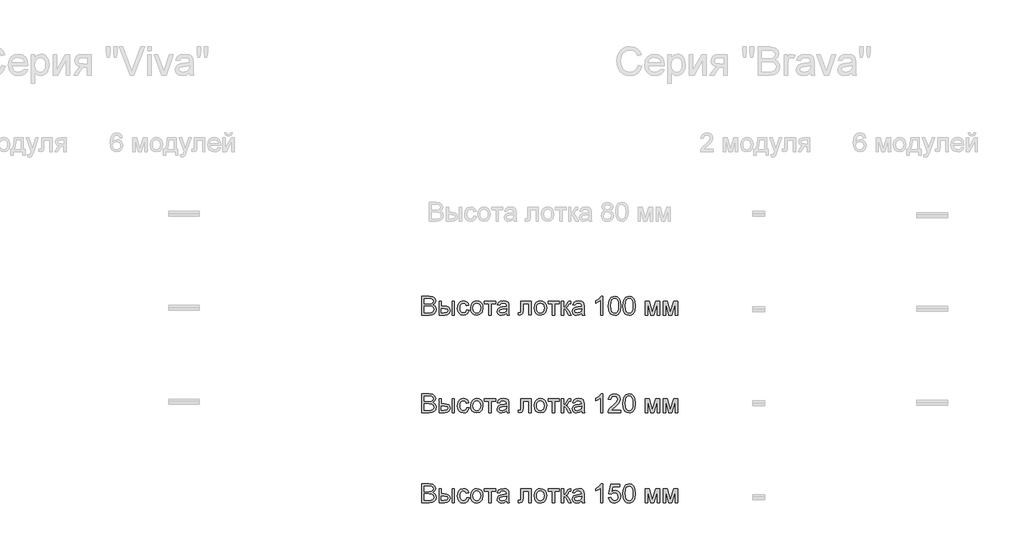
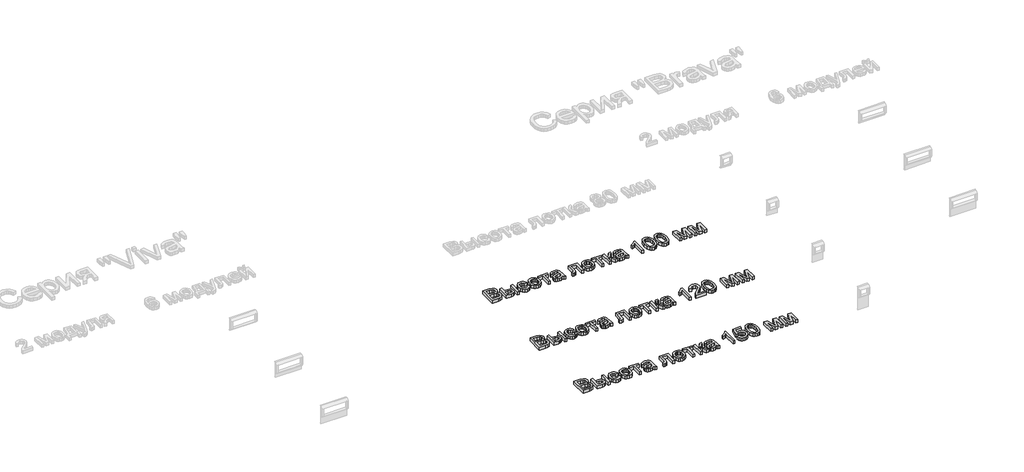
# One storey, part 8 of 28: 3 proxies.
"""IFC4 building model written with IfcOpenShell, lengths in millimetres."""

from ifc_helpers import new_model, si_unit, origin, origin_with_axes, place, context, project, spatial, polyline, outline, extrude, element, save

model = new_model("IFC4")

# Units and contexts
model_context = context("Model", 3, world=origin())
ifc_project = project(units=[si_unit("LENGTHUNIT", "METRE", prefix="MILLI")], contexts=[model_context])

# Site, building, storey
site = spatial("IfcSite", under=ifc_project)
building = spatial("IfcBuilding", under=site)
storey = spatial("IfcBuildingStorey", under=building, Name="Этаж 01", Elevation=0.0)

# Proxies
placement = place(None, origin())
element("IfcBuildingElementProxy", 1, Name="100 мм Arial", ObjectType="100 мм Arial", at=placement, inside=storey, context=model_context, shape_type="SweptSolid", body=[
    extrude(outline(polyline([(5877.0688437, -12466.5703412), (5877.0688437, -12366.114031), (5915.4021476, -12366.114031), (5934.1763921, -12369.0693497), (5945.2619029, -12378.156035), (5949.2718166, -12391.0073794), (5945.899565, -12402.742815), (5935.7092337, -12411.6332966), (5948.0823315, -12421.0020247), (5952.4110763, -12436.6247468), (5949.4557576, -12450.126016), (5942.1349059, -12459.7399988), (5931.2088107, -12464.8412958), (5915.107842, -12466.5703412), (5877.0688437, -12466.5703412)]), holes=[polyline([(5889.6258825, -12406.924407), (5912.5571935, -12406.924407), (5925.9480981, -12405.8452865), (5934.0047138, -12401.1977106), (5936.7147778, -12393.0184676), (5934.1886548, -12384.8269619), (5926.9536422, -12379.9831823), (5910.8158854, -12378.6710698), (5889.6258825, -12378.6710698), (5889.6258825, -12406.924407)]), polyline([(5889.6258825, -12454.0133024), (5915.3776221, -12454.0133024), (5924.6972993, -12453.5227931), (5932.5822368, -12450.7882036), (5937.8061611, -12445.20866), (5939.8540375, -12436.7473741), (5937.4505418, -12426.9862385), (5929.6637063, -12421.1614402), (5914.1513488, -12419.4814458), (5889.6258825, -12419.4814458), (5889.6258825, -12454.0133024)])]), origin_with_axes(), (0.0, 0.0, 1.0), 20.0),
    extrude(outline(polyline([(6037.171088, -12392.7977384), (6049.7281268, -12392.7977384), (6049.7281268, -12466.5703412), (6037.171088, -12466.5703412), (6037.171088, -12392.7977384)])), origin_with_axes(), (0.0, 0.0, 1.0), 20.0),
    extrude(outline(polyline([(5968.1073748, -12392.7977384), (5980.6644135, -12392.7977384), (5980.6644135, -12419.4814458), (5996.1890337, -12419.4814458), (6009.6075295, -12421.0541413), (6019.5495404, -12425.7722279), (6025.7023668, -12433.2555608), (6027.7533089, -12443.1239954), (6026.0334606, -12452.1095131), (6020.8739156, -12459.6909479), (6011.9374488, -12464.8504929), (5998.886835, -12466.5703412), (5968.1073748, -12466.5703412), (5968.1073748, -12392.7977384)]), holes=[polyline([(5980.6644135, -12454.0133024), (5993.5648088, -12454.0133024), (6010.2176005, -12451.3768148), (6015.1962702, -12443.1485208), (6011.5051875, -12435.4229989), (5995.2080151, -12432.0384846), (5980.6644135, -12432.0384846), (5980.6644135, -12454.0133024)])]), origin_with_axes(), (0.0, 0.0, 1.0), 20.0),
    extrude(outline(polyline([(6115.6525803, -12439.8866338), (6128.2096191, -12441.4562636), (6124.7086087, -12452.6245479), (6118.1296524, -12461.064374), (6109.0920181, -12466.3710718), (6098.2149737, -12468.139971), (6084.8577916, -12465.672096), (6074.4130086, -12458.2684708), (6067.6715711, -12446.254058), (6065.4244252, -12429.9538199), (6069.2626607, -12409.0949108), (6080.9613082, -12395.6917434), (6098.0432955, -12391.2281086), (6108.6536253, -12392.7609502), (6117.136371, -12397.3594752), (6123.2217524, -12404.7784287), (6126.6399892, -12414.7725563), (6114.0829505, -12416.3421861), (6108.2581522, -12406.9366698), (6098.1413973, -12403.7851473), (6090.0265337, -12405.3363831), (6083.5855331, -12409.9900903), (6079.3824813, -12417.9976551), (6077.981464, -12429.6104634), (6079.3518244, -12441.3796216), (6083.4629057, -12449.4147775), (6089.7874104, -12454.0408936), (6097.7980408, -12455.5829323), (6109.6315783, -12451.732434), (6115.6525803, -12439.8866338)])), origin_with_axes(), (0.0, 0.0, 1.0), 20.0),
    extrude(outline(polyline([(6136.0577683, -12429.6840398), (6138.7739637, -12411.8969453), (6146.9225499, -12399.3950889), (6156.9902538, -12393.2698536), (6169.0445205, -12391.2281086), (6182.2361557, -12393.7143777), (6192.7729092, -12401.1731852), (6199.6798937, -12413.0159197), (6201.9822218, -12428.6539702), (6197.9109944, -12450.9966701), (6186.0529314, -12463.639548), (6169.0445205, -12468.139971), (6155.6934698, -12465.6628989), (6145.168979, -12458.2316826), (6138.335571, -12446.1406277), (6136.0577683, -12429.6840398)]), holes=[polyline([(6148.6148071, -12429.6595143), (6150.0679409, -12441.0240023), (6154.4273426, -12449.1204719), (6160.9879048, -12453.9673172), (6169.0445205, -12455.5829323), (6177.064348, -12453.9581201), (6183.6126475, -12449.0836837), (6187.9720492, -12440.8799152), (6189.4251831, -12429.2671069), (6187.9628521, -12418.2337127), (6183.5758593, -12410.2476077), (6177.0183628, -12405.4007624), (6169.0445205, -12403.7851473), (6160.9879048, -12405.3946311), (6154.4273426, -12410.2230823), (6150.0679409, -12418.3011577), (6148.6148071, -12429.6595143)])]), origin_with_axes(), (0.0, 0.0, 1.0), 20.0),
    extrude(outline(polyline([(6209.8303711, -12392.7977384), (6269.4763052, -12392.7977384), (6269.4763052, -12405.3547772), (6245.9318575, -12405.3547772), (6245.9318575, -12466.5703412), (6233.3748188, -12466.5703412), (6233.3748188, -12405.3547772), (6209.8303711, -12405.3547772), (6209.8303711, -12392.7977384)])), origin_with_axes(), (0.0, 0.0, 1.0), 20.0),
    extrude(outline(polyline([(6327.5526095, -12457.1525621), (6315.3757155, -12465.6628989), (6301.9234972, -12468.139971), (6291.4296633, -12466.6500489), (6283.688813, -12462.1802827), (6278.9155441, -12455.3928599), (6277.3244544, -12446.9499681), (6279.7279501, -12437.0171542), (6286.0432577, -12429.8066671), (6294.8356374, -12425.6863888), (6305.700419, -12423.7979279), (6327.4790331, -12419.4814458), (6327.5526095, -12416.6855426), (6324.0945188, -12407.4149164), (6310.2131048, -12403.7851473), (6297.5089132, -12406.2009058), (6291.4511231, -12414.7725563), (6278.8940843, -12413.2029264), (6284.3264751, -12400.9401932), (6295.2648331, -12393.7542316), (6311.8317856, -12391.2281086), (6327.0498375, -12393.459926), (6335.6460134, -12399.0639951), (6339.4965116, -12407.5865946), (6340.1096483, -12418.5740035), (6340.1096483, -12434.1967256), (6340.7473104, -12456.0121279), (6343.248908, -12466.5703412), (6330.6918692, -12466.5703412), (6327.5526095, -12457.1525621)]), holes=[polyline([(6327.5526095, -12432.0384846), (6307.2945743, -12435.8889828), (6296.4911064, -12437.9245965), (6291.5982759, -12441.2355344), (6289.8814932, -12446.0670513), (6293.6216268, -12452.8606055), (6304.596773, -12455.5829323), (6317.3009646, -12452.5785626), (6325.4924703, -12445.3067619), (6327.4790331, -12435.5946772), (6327.5526095, -12432.0384846)])]), origin_with_axes(), (0.0, 0.0, 1.0), 20.0),
    extrude(outline(polyline([(6402.8948421, -12392.7977384), (6459.4015166, -12392.7977384), (6459.4015166, -12466.4967648), (6446.8444778, -12466.4967648), (6446.8444778, -12405.3547772), (6415.4518809, -12405.3547772), (6415.4518809, -12440.5488214), (6414.6057523, -12456.7846801), (6409.9581764, -12463.639548), (6398.9707675, -12466.5703412), (6388.7681735, -12465.9326791), (6388.7681735, -12454.0133024), (6394.3845053, -12454.0133024), (6400.0621508, -12453.2407502), (6402.3307564, -12450.7882036), (6402.8948421, -12439.8375829), (6402.8948421, -12392.7977384)])), origin_with_axes(), (0.0, 0.0, 1.0), 20.0),
    extrude(outline(polyline([(6475.0978151, -12429.6840398), (6477.8140105, -12411.8969453), (6485.9625966, -12399.3950889), (6496.0303006, -12393.2698536), (6508.0845673, -12391.2281086), (6521.2762025, -12393.7143777), (6531.812956, -12401.1731852), (6538.7199404, -12413.0159197), (6541.0222686, -12428.6539702), (6536.9510412, -12450.9966701), (6525.0929782, -12463.639548), (6508.0845673, -12468.139971), (6494.7335165, -12465.6628989), (6484.2090258, -12458.2316826), (6477.3756177, -12446.1406277), (6475.0978151, -12429.6840398)]), holes=[polyline([(6487.6548538, -12429.6595143), (6489.1079877, -12441.0240023), (6493.4673893, -12449.1204719), (6500.0279516, -12453.9673172), (6508.0845673, -12455.5829323), (6516.1043948, -12453.9581201), (6522.6526943, -12449.0836837), (6527.0120959, -12440.8799152), (6528.4652298, -12429.2671069), (6527.0028989, -12418.2337127), (6522.6159061, -12410.2476077), (6516.0584095, -12405.4007624), (6508.0845673, -12403.7851473), (6500.0279516, -12405.3946311), (6493.4673893, -12410.2230823), (6489.1079877, -12418.3011577), (6487.6548538, -12429.6595143)])]), origin_with_axes(), (0.0, 0.0, 1.0), 20.0),
    extrude(outline(polyline([(6548.8704178, -12392.7977384), (6608.516352, -12392.7977384), (6608.516352, -12405.3547772), (6584.9719043, -12405.3547772), (6584.9719043, -12466.5703412), (6572.4148655, -12466.5703412), (6572.4148655, -12405.3547772), (6548.8704178, -12405.3547772), (6548.8704178, -12392.7977384)])), origin_with_axes(), (0.0, 0.0, 1.0), 20.0),
    extrude(outline(polyline([(6619.5037609, -12392.7977384), (6632.0607997, -12392.7977384), (6632.0607997, -12424.1903353), (6640.4730346, -12421.9339924), (6647.3646907, -12408.7883425), (6653.0913871, -12397.4453143), (6658.1436331, -12393.7542316), (6667.3284203, -12392.7977384), (6669.731916, -12392.7977384), (6669.731916, -12405.4283536), (6666.3474016, -12405.3547772), (6660.216035, -12406.6791524), (6655.899553, -12414.9442345), (6650.8350442, -12423.883767), (6643.7349216, -12428.2615628), (6651.6566473, -12433.1482619), (6659.4312201, -12443.4428264), (6672.8711757, -12466.5703412), (6658.5973542, -12466.5703412), (6645.4271788, -12443.9333357), (6638.8053029, -12434.3561411), (6632.0607997, -12432.0384846), (6632.0607997, -12466.5703412), (6619.5037609, -12466.5703412), (6619.5037609, -12392.7977384)])), origin_with_axes(), (0.0, 0.0, 1.0), 20.0),
    extrude(outline(polyline([(6727.8082203, -12457.1525621), (6715.6313262, -12465.6628989), (6702.1791079, -12468.139971), (6691.685274, -12466.6500489), (6683.9444237, -12462.1802827), (6679.1711548, -12455.3928599), (6677.5800652, -12446.9499681), (6679.9835609, -12437.0171542), (6686.2988685, -12429.8066671), (6695.0912482, -12425.6863888), (6705.9560298, -12423.7979279), (6727.7346439, -12419.4814458), (6727.8082203, -12416.6855426), (6724.3501295, -12407.4149164), (6710.4687156, -12403.7851473), (6697.764524, -12406.2009058), (6691.7067338, -12414.7725563), (6679.149695, -12413.2029264), (6684.5820858, -12400.9401932), (6695.5204438, -12393.7542316), (6712.0873963, -12391.2281086), (6727.3054482, -12393.459926), (6735.9016242, -12399.0639951), (6739.7521224, -12407.5865946), (6740.365259, -12418.5740035), (6740.365259, -12434.1967256), (6741.0029212, -12456.0121279), (6743.5045187, -12466.5703412), (6730.94748, -12466.5703412), (6727.8082203, -12457.1525621)]), holes=[polyline([(6727.8082203, -12432.0384846), (6707.5501851, -12435.8889828), (6696.7467171, -12437.9245965), (6691.8538866, -12441.2355344), (6690.137104, -12446.0670513), (6693.8772376, -12452.8606055), (6704.8523838, -12455.5829323), (6717.5565753, -12452.5785626), (6725.7480811, -12445.3067619), (6727.7346439, -12435.5946772), (6727.8082203, -12432.0384846)])]), origin_with_axes(), (0.0, 0.0, 1.0), 20.0),
    extrude(outline(polyline([(6840.8215692, -12466.5703412), (6828.2645304, -12466.5703412), (6828.2645304, -12388.2850526), (6816.3696792, -12396.7586012), (6803.1504529, -12403.0984343), (6803.1504529, -12391.2281086), (6821.5568154, -12379.4804102), (6832.7281653, -12366.114031), (6840.8215692, -12366.114031), (6840.8215692, -12466.5703412)])), origin_with_axes(), (0.0, 0.0, 1.0), 20.0),
    extrude(outline(polyline([(6870.6445363, -12417.1515265), (6874.335619, -12388.2482644), (6885.2985024, -12371.58321), (6903.606763, -12366.114031), (6918.2729919, -12369.3513926), (6928.4020095, -12378.6833325), (6934.2881214, -12393.5457651), (6936.5689898, -12417.1515265), (6932.9146953, -12445.9321613), (6921.9886001, -12462.6340038), (6913.7572404, -12466.7634792), (6903.606763, -12468.139971), (6890.5592149, -12465.7487381), (6880.6509265, -12458.5750392), (6873.1461338, -12441.5850223), (6870.6445363, -12417.1515265)]), holes=[polyline([(6883.201575, -12417.127001), (6884.673103, -12436.8791985), (6889.087687, -12448.3111315), (6895.6605119, -12453.7649821), (6903.606763, -12455.5829323), (6911.5530141, -12453.7588507), (6918.1258391, -12448.286606), (6922.5404231, -12436.8485417), (6924.011951, -12417.127001), (6922.589474, -12397.8193277), (6918.3220428, -12386.2984898), (6911.7614806, -12380.5779248), (6903.4596102, -12378.6710698), (6895.5991983, -12380.3510642), (6889.2838907, -12385.3910476), (6884.722154, -12397.6292553), (6883.201575, -12417.127001)])]), origin_with_axes(), (0.0, 0.0, 1.0), 20.0),
    extrude(outline(polyline([(6947.5563987, -12417.1515265), (6951.2474814, -12388.2482644), (6962.2103649, -12371.58321), (6980.5186255, -12366.114031), (6995.1848544, -12369.3513926), (7005.313872, -12378.6833325), (7011.1999839, -12393.5457651), (7013.4808523, -12417.1515265), (7009.8265578, -12445.9321613), (6998.9004625, -12462.6340038), (6990.6691029, -12466.7634792), (6980.5186255, -12468.139971), (6967.4710774, -12465.7487381), (6957.562789, -12458.5750392), (6950.0579963, -12441.5850223), (6947.5563987, -12417.1515265)]), holes=[polyline([(6960.1134375, -12417.127001), (6961.5849655, -12436.8791985), (6965.9995494, -12448.3111315), (6972.5723744, -12453.7649821), (6980.5186255, -12455.5829323), (6988.4648766, -12453.7588507), (6995.0377016, -12448.286606), (6999.4522855, -12436.8485417), (7000.9238135, -12417.127001), (6999.5013364, -12397.8193277), (6995.2339053, -12386.2984898), (6988.6733431, -12380.5779248), (6980.3714727, -12378.6710698), (6972.5110607, -12380.3510642), (6966.1957531, -12385.3910476), (6961.6340164, -12397.6292553), (6960.1134375, -12417.127001)])]), origin_with_axes(), (0.0, 0.0, 1.0), 20.0),
    extrude(outline(polyline([(7066.848267, -12392.7977384), (7088.4552029, -12392.7977384), (7105.1079945, -12451.8550614), (7123.0606359, -12392.7977384), (7143.7601295, -12392.7977384), (7143.7601295, -12466.5703412), (7131.2030907, -12466.5703412), (7131.2030907, -12407.1696617), (7113.1523475, -12466.5703412), (7096.6712341, -12466.5703412), (7079.4053058, -12404.3247076), (7079.4053058, -12466.5703412), (7066.848267, -12466.5703412), (7066.848267, -12392.7977384)])), origin_with_axes(), (0.0, 0.0, 1.0), 20.0),
    extrude(outline(polyline([(7162.5956876, -12392.7977384), (7184.2026235, -12392.7977384), (7200.8554151, -12451.8550614), (7218.8080565, -12392.7977384), (7239.5075501, -12392.7977384), (7239.5075501, -12466.5703412), (7226.9505113, -12466.5703412), (7226.9505113, -12407.1696617), (7208.8997681, -12466.5703412), (7192.4186547, -12466.5703412), (7175.1527264, -12404.3247076), (7175.1527264, -12466.5703412), (7162.5956876, -12466.5703412), (7162.5956876, -12392.7977384)])), origin_with_axes(), (0.0, 0.0, 1.0), 20.0),
])
element("IfcBuildingElementProxy", 2, Name="100 мм Arial", ObjectType="100 мм Arial", at=placement, inside=storey, context=model_context, shape_type="SweptSolid", body=[
    extrude(outline(polyline([(5877.0688437, -12986.5703412), (5877.0688437, -12886.114031), (5915.4021476, -12886.114031), (5934.1763921, -12889.0693497), (5945.2619029, -12898.156035), (5949.2718166, -12911.0073794), (5945.899565, -12922.742815), (5935.7092337, -12931.6332966), (5948.0823315, -12941.0020247), (5952.4110763, -12956.6247468), (5949.4557576, -12970.126016), (5942.1349059, -12979.7399988), (5931.2088107, -12984.8412958), (5915.107842, -12986.5703412), (5877.0688437, -12986.5703412)]), holes=[polyline([(5889.6258825, -12926.924407), (5912.5571935, -12926.924407), (5925.9480981, -12925.8452865), (5934.0047138, -12921.1977106), (5936.7147778, -12913.0184676), (5934.1886548, -12904.8269619), (5926.9536422, -12899.9831823), (5910.8158854, -12898.6710698), (5889.6258825, -12898.6710698), (5889.6258825, -12926.924407)]), polyline([(5889.6258825, -12974.0133024), (5915.3776221, -12974.0133024), (5924.6972993, -12973.5227931), (5932.5822368, -12970.7882036), (5937.8061611, -12965.20866), (5939.8540375, -12956.7473741), (5937.4505418, -12946.9862385), (5929.6637063, -12941.1614402), (5914.1513488, -12939.4814458), (5889.6258825, -12939.4814458), (5889.6258825, -12974.0133024)])]), origin_with_axes(), (0.0, 0.0, 1.0), 20.0),
    extrude(outline(polyline([(6037.171088, -12912.7977384), (6049.7281268, -12912.7977384), (6049.7281268, -12986.5703412), (6037.171088, -12986.5703412), (6037.171088, -12912.7977384)])), origin_with_axes(), (0.0, 0.0, 1.0), 20.0),
    extrude(outline(polyline([(5968.1073748, -12912.7977384), (5980.6644135, -12912.7977384), (5980.6644135, -12939.4814458), (5996.1890337, -12939.4814458), (6009.6075295, -12941.0541413), (6019.5495404, -12945.7722279), (6025.7023668, -12953.2555608), (6027.7533089, -12963.1239954), (6026.0334606, -12972.1095131), (6020.8739156, -12979.6909479), (6011.9374488, -12984.8504929), (5998.886835, -12986.5703412), (5968.1073748, -12986.5703412), (5968.1073748, -12912.7977384)]), holes=[polyline([(5980.6644135, -12974.0133024), (5993.5648088, -12974.0133024), (6010.2176005, -12971.3768148), (6015.1962702, -12963.1485208), (6011.5051875, -12955.4229989), (5995.2080151, -12952.0384846), (5980.6644135, -12952.0384846), (5980.6644135, -12974.0133024)])]), origin_with_axes(), (0.0, 0.0, 1.0), 20.0),
    extrude(outline(polyline([(6115.6525803, -12959.8866338), (6128.2096191, -12961.4562636), (6124.7086087, -12972.6245479), (6118.1296524, -12981.064374), (6109.0920181, -12986.3710718), (6098.2149737, -12988.139971), (6084.8577916, -12985.672096), (6074.4130086, -12978.2684708), (6067.6715711, -12966.254058), (6065.4244252, -12949.9538199), (6069.2626607, -12929.0949108), (6080.9613082, -12915.6917434), (6098.0432955, -12911.2281086), (6108.6536253, -12912.7609502), (6117.136371, -12917.3594752), (6123.2217524, -12924.7784287), (6126.6399892, -12934.7725563), (6114.0829505, -12936.3421861), (6108.2581522, -12926.9366698), (6098.1413973, -12923.7851473), (6090.0265337, -12925.3363831), (6083.5855331, -12929.9900903), (6079.3824813, -12937.9976551), (6077.981464, -12949.6104634), (6079.3518244, -12961.3796216), (6083.4629057, -12969.4147775), (6089.7874104, -12974.0408936), (6097.7980408, -12975.5829323), (6109.6315783, -12971.732434), (6115.6525803, -12959.8866338)])), origin_with_axes(), (0.0, 0.0, 1.0), 20.0),
    extrude(outline(polyline([(6136.0577683, -12949.6840398), (6138.7739637, -12931.8969453), (6146.9225499, -12919.3950889), (6156.9902538, -12913.2698536), (6169.0445205, -12911.2281086), (6182.2361557, -12913.7143777), (6192.7729092, -12921.1731852), (6199.6798937, -12933.0159197), (6201.9822218, -12948.6539702), (6197.9109944, -12970.9966701), (6186.0529314, -12983.639548), (6169.0445205, -12988.139971), (6155.6934698, -12985.6628989), (6145.168979, -12978.2316826), (6138.335571, -12966.1406277), (6136.0577683, -12949.6840398)]), holes=[polyline([(6148.6148071, -12949.6595143), (6150.0679409, -12961.0240023), (6154.4273426, -12969.1204719), (6160.9879048, -12973.9673172), (6169.0445205, -12975.5829323), (6177.064348, -12973.9581201), (6183.6126475, -12969.0836837), (6187.9720492, -12960.8799152), (6189.4251831, -12949.2671069), (6187.9628521, -12938.2337127), (6183.5758593, -12930.2476077), (6177.0183628, -12925.4007624), (6169.0445205, -12923.7851473), (6160.9879048, -12925.3946311), (6154.4273426, -12930.2230823), (6150.0679409, -12938.3011577), (6148.6148071, -12949.6595143)])]), origin_with_axes(), (0.0, 0.0, 1.0), 20.0),
    extrude(outline(polyline([(6209.8303711, -12912.7977384), (6269.4763052, -12912.7977384), (6269.4763052, -12925.3547772), (6245.9318575, -12925.3547772), (6245.9318575, -12986.5703412), (6233.3748188, -12986.5703412), (6233.3748188, -12925.3547772), (6209.8303711, -12925.3547772), (6209.8303711, -12912.7977384)])), origin_with_axes(), (0.0, 0.0, 1.0), 20.0),
    extrude(outline(polyline([(6327.5526095, -12977.1525621), (6315.3757155, -12985.6628989), (6301.9234972, -12988.139971), (6291.4296633, -12986.6500489), (6283.688813, -12982.1802827), (6278.9155441, -12975.3928599), (6277.3244544, -12966.9499681), (6279.7279501, -12957.0171542), (6286.0432577, -12949.8066671), (6294.8356374, -12945.6863888), (6305.700419, -12943.7979279), (6327.4790331, -12939.4814458), (6327.5526095, -12936.6855426), (6324.0945188, -12927.4149164), (6310.2131048, -12923.7851473), (6297.5089132, -12926.2009058), (6291.4511231, -12934.7725563), (6278.8940843, -12933.2029264), (6284.3264751, -12920.9401932), (6295.2648331, -12913.7542316), (6311.8317856, -12911.2281086), (6327.0498375, -12913.459926), (6335.6460134, -12919.0639951), (6339.4965116, -12927.5865946), (6340.1096483, -12938.5740035), (6340.1096483, -12954.1967256), (6340.7473104, -12976.0121279), (6343.248908, -12986.5703412), (6330.6918692, -12986.5703412), (6327.5526095, -12977.1525621)]), holes=[polyline([(6327.5526095, -12952.0384846), (6307.2945743, -12955.8889828), (6296.4911064, -12957.9245965), (6291.5982759, -12961.2355344), (6289.8814932, -12966.0670513), (6293.6216268, -12972.8606055), (6304.596773, -12975.5829323), (6317.3009646, -12972.5785626), (6325.4924703, -12965.3067619), (6327.4790331, -12955.5946772), (6327.5526095, -12952.0384846)])]), origin_with_axes(), (0.0, 0.0, 1.0), 20.0),
    extrude(outline(polyline([(6402.8948421, -12912.7977384), (6459.4015166, -12912.7977384), (6459.4015166, -12986.4967648), (6446.8444778, -12986.4967648), (6446.8444778, -12925.3547772), (6415.4518809, -12925.3547772), (6415.4518809, -12960.5488214), (6414.6057523, -12976.7846801), (6409.9581764, -12983.639548), (6398.9707675, -12986.5703412), (6388.7681735, -12985.9326791), (6388.7681735, -12974.0133024), (6394.3845053, -12974.0133024), (6400.0621508, -12973.2407502), (6402.3307564, -12970.7882036), (6402.8948421, -12959.8375829), (6402.8948421, -12912.7977384)])), origin_with_axes(), (0.0, 0.0, 1.0), 20.0),
    extrude(outline(polyline([(6475.0978151, -12949.6840398), (6477.8140105, -12931.8969453), (6485.9625966, -12919.3950889), (6496.0303006, -12913.2698536), (6508.0845673, -12911.2281086), (6521.2762025, -12913.7143777), (6531.812956, -12921.1731852), (6538.7199404, -12933.0159197), (6541.0222686, -12948.6539702), (6536.9510412, -12970.9966701), (6525.0929782, -12983.639548), (6508.0845673, -12988.139971), (6494.7335165, -12985.6628989), (6484.2090258, -12978.2316826), (6477.3756177, -12966.1406277), (6475.0978151, -12949.6840398)]), holes=[polyline([(6487.6548538, -12949.6595143), (6489.1079877, -12961.0240023), (6493.4673893, -12969.1204719), (6500.0279516, -12973.9673172), (6508.0845673, -12975.5829323), (6516.1043948, -12973.9581201), (6522.6526943, -12969.0836837), (6527.0120959, -12960.8799152), (6528.4652298, -12949.2671069), (6527.0028989, -12938.2337127), (6522.6159061, -12930.2476077), (6516.0584095, -12925.4007624), (6508.0845673, -12923.7851473), (6500.0279516, -12925.3946311), (6493.4673893, -12930.2230823), (6489.1079877, -12938.3011577), (6487.6548538, -12949.6595143)])]), origin_with_axes(), (0.0, 0.0, 1.0), 20.0),
    extrude(outline(polyline([(6548.8704178, -12912.7977384), (6608.516352, -12912.7977384), (6608.516352, -12925.3547772), (6584.9719043, -12925.3547772), (6584.9719043, -12986.5703412), (6572.4148655, -12986.5703412), (6572.4148655, -12925.3547772), (6548.8704178, -12925.3547772), (6548.8704178, -12912.7977384)])), origin_with_axes(), (0.0, 0.0, 1.0), 20.0),
    extrude(outline(polyline([(6619.5037609, -12912.7977384), (6632.0607997, -12912.7977384), (6632.0607997, -12944.1903353), (6640.4730346, -12941.9339924), (6647.3646907, -12928.7883425), (6653.0913871, -12917.4453143), (6658.1436331, -12913.7542316), (6667.3284203, -12912.7977384), (6669.731916, -12912.7977384), (6669.731916, -12925.4283536), (6666.3474016, -12925.3547772), (6660.216035, -12926.6791524), (6655.899553, -12934.9442345), (6650.8350442, -12943.883767), (6643.7349216, -12948.2615628), (6651.6566473, -12953.1482619), (6659.4312201, -12963.4428264), (6672.8711757, -12986.5703412), (6658.5973542, -12986.5703412), (6645.4271788, -12963.9333357), (6638.8053029, -12954.3561411), (6632.0607997, -12952.0384846), (6632.0607997, -12986.5703412), (6619.5037609, -12986.5703412), (6619.5037609, -12912.7977384)])), origin_with_axes(), (0.0, 0.0, 1.0), 20.0),
    extrude(outline(polyline([(6727.8082203, -12977.1525621), (6715.6313262, -12985.6628989), (6702.1791079, -12988.139971), (6691.685274, -12986.6500489), (6683.9444237, -12982.1802827), (6679.1711548, -12975.3928599), (6677.5800652, -12966.9499681), (6679.9835609, -12957.0171542), (6686.2988685, -12949.8066671), (6695.0912482, -12945.6863888), (6705.9560298, -12943.7979279), (6727.7346439, -12939.4814458), (6727.8082203, -12936.6855426), (6724.3501295, -12927.4149164), (6710.4687156, -12923.7851473), (6697.764524, -12926.2009058), (6691.7067338, -12934.7725563), (6679.149695, -12933.2029264), (6684.5820858, -12920.9401932), (6695.5204438, -12913.7542316), (6712.0873963, -12911.2281086), (6727.3054482, -12913.459926), (6735.9016242, -12919.0639951), (6739.7521224, -12927.5865946), (6740.365259, -12938.5740035), (6740.365259, -12954.1967256), (6741.0029212, -12976.0121279), (6743.5045187, -12986.5703412), (6730.94748, -12986.5703412), (6727.8082203, -12977.1525621)]), holes=[polyline([(6727.8082203, -12952.0384846), (6707.5501851, -12955.8889828), (6696.7467171, -12957.9245965), (6691.8538866, -12961.2355344), (6690.137104, -12966.0670513), (6693.8772376, -12972.8606055), (6704.8523838, -12975.5829323), (6717.5565753, -12972.5785626), (6725.7480811, -12965.3067619), (6727.7346439, -12955.5946772), (6727.8082203, -12952.0384846)])]), origin_with_axes(), (0.0, 0.0, 1.0), 20.0),
    extrude(outline(polyline([(6840.8215692, -12986.5703412), (6828.2645304, -12986.5703412), (6828.2645304, -12908.2850526), (6816.3696792, -12916.7586012), (6803.1504529, -12923.0984343), (6803.1504529, -12911.2281086), (6821.5568154, -12899.4804102), (6832.7281653, -12886.114031), (6840.8215692, -12886.114031), (6840.8215692, -12986.5703412)])), origin_with_axes(), (0.0, 0.0, 1.0), 20.0),
    extrude(outline(polyline([(6934.99936, -12974.0133024), (6934.99936, -12986.5703412), (6869.0749064, -12986.5703412), (6870.4238071, -12977.9128516), (6878.0512271, -12964.5832606), (6893.772051, -12950.0273963), (6915.4525633, -12929.1071735), (6920.8726913, -12914.8824031), (6915.7591316, -12903.3676966), (6902.4050152, -12898.6710698), (6888.486813, -12903.257332), (6883.201575, -12915.9369981), (6870.6445363, -12914.3673683), (6873.6887598, -12902.2211311), (6880.2707818, -12893.3490436), (6890.0472458, -12887.9227842), (6902.6747953, -12886.114031), (6915.3943153, -12888.1251193), (6925.1523852, -12894.158384), (6931.3603939, -12903.1714929), (6933.4297301, -12914.1221136), (6931.1979127, -12926.0292275), (6923.7789591, -12938.3410116), (6905.7895295, -12955.5456263), (6891.3440299, -12967.6244184), (6885.6786471, -12974.0133024), (6934.99936, -12974.0133024)])), origin_with_axes(), (0.0, 0.0, 1.0), 20.0),
    extrude(outline(polyline([(6947.5563987, -12937.1515265), (6951.2474814, -12908.2482644), (6962.2103649, -12891.58321), (6980.5186255, -12886.114031), (6995.1848544, -12889.3513926), (7005.313872, -12898.6833325), (7011.1999839, -12913.5457651), (7013.4808523, -12937.1515265), (7009.8265578, -12965.9321613), (6998.9004625, -12982.6340038), (6990.6691029, -12986.7634792), (6980.5186255, -12988.139971), (6967.4710774, -12985.7487381), (6957.562789, -12978.5750392), (6950.0579963, -12961.5850223), (6947.5563987, -12937.1515265)]), holes=[polyline([(6960.1134375, -12937.127001), (6961.5849655, -12956.8791985), (6965.9995494, -12968.3111315), (6972.5723744, -12973.7649821), (6980.5186255, -12975.5829323), (6988.4648766, -12973.7588507), (6995.0377016, -12968.286606), (6999.4522855, -12956.8485417), (7000.9238135, -12937.127001), (6999.5013364, -12917.8193277), (6995.2339053, -12906.2984898), (6988.6733431, -12900.5779248), (6980.3714727, -12898.6710698), (6972.5110607, -12900.3510642), (6966.1957531, -12905.3910476), (6961.6340164, -12917.6292553), (6960.1134375, -12937.127001)])]), origin_with_axes(), (0.0, 0.0, 1.0), 20.0),
    extrude(outline(polyline([(7066.848267, -12912.7977384), (7088.4552029, -12912.7977384), (7105.1079945, -12971.8550614), (7123.0606359, -12912.7977384), (7143.7601295, -12912.7977384), (7143.7601295, -12986.5703412), (7131.2030907, -12986.5703412), (7131.2030907, -12927.1696617), (7113.1523475, -12986.5703412), (7096.6712341, -12986.5703412), (7079.4053058, -12924.3247076), (7079.4053058, -12986.5703412), (7066.848267, -12986.5703412), (7066.848267, -12912.7977384)])), origin_with_axes(), (0.0, 0.0, 1.0), 20.0),
    extrude(outline(polyline([(7162.5956876, -12912.7977384), (7184.2026235, -12912.7977384), (7200.8554151, -12971.8550614), (7218.8080565, -12912.7977384), (7239.5075501, -12912.7977384), (7239.5075501, -12986.5703412), (7226.9505113, -12986.5703412), (7226.9505113, -12927.1696617), (7208.8997681, -12986.5703412), (7192.4186547, -12986.5703412), (7175.1527264, -12924.3247076), (7175.1527264, -12986.5703412), (7162.5956876, -12986.5703412), (7162.5956876, -12912.7977384)])), origin_with_axes(), (0.0, 0.0, 1.0), 20.0),
])
element("IfcBuildingElementProxy", 3, Name="100 мм Arial", ObjectType="100 мм Arial", at=placement, inside=storey, context=model_context, shape_type="SweptSolid", body=[
    extrude(outline(polyline([(5877.0688437, -13466.5703412), (5877.0688437, -13366.114031), (5915.4021476, -13366.114031), (5934.1763921, -13369.0693497), (5945.2619029, -13378.156035), (5949.2718166, -13391.0073794), (5945.899565, -13402.742815), (5935.7092337, -13411.6332966), (5948.0823315, -13421.0020247), (5952.4110763, -13436.6247468), (5949.4557576, -13450.126016), (5942.1349059, -13459.7399988), (5931.2088107, -13464.8412958), (5915.107842, -13466.5703412), (5877.0688437, -13466.5703412)]), holes=[polyline([(5889.6258825, -13406.924407), (5912.5571935, -13406.924407), (5925.9480981, -13405.8452865), (5934.0047138, -13401.1977106), (5936.7147778, -13393.0184676), (5934.1886548, -13384.8269619), (5926.9536422, -13379.9831823), (5910.8158854, -13378.6710698), (5889.6258825, -13378.6710698), (5889.6258825, -13406.924407)]), polyline([(5889.6258825, -13454.0133024), (5915.3776221, -13454.0133024), (5924.6972993, -13453.5227931), (5932.5822368, -13450.7882036), (5937.8061611, -13445.20866), (5939.8540375, -13436.7473741), (5937.4505418, -13426.9862385), (5929.6637063, -13421.1614402), (5914.1513488, -13419.4814458), (5889.6258825, -13419.4814458), (5889.6258825, -13454.0133024)])]), origin_with_axes(), (0.0, 0.0, 1.0), 20.0),
    extrude(outline(polyline([(6037.171088, -13392.7977384), (6049.7281268, -13392.7977384), (6049.7281268, -13466.5703412), (6037.171088, -13466.5703412), (6037.171088, -13392.7977384)])), origin_with_axes(), (0.0, 0.0, 1.0), 20.0),
    extrude(outline(polyline([(5968.1073748, -13392.7977384), (5980.6644135, -13392.7977384), (5980.6644135, -13419.4814458), (5996.1890337, -13419.4814458), (6009.6075295, -13421.0541413), (6019.5495404, -13425.7722279), (6025.7023668, -13433.2555608), (6027.7533089, -13443.1239954), (6026.0334606, -13452.1095131), (6020.8739156, -13459.6909479), (6011.9374488, -13464.8504929), (5998.886835, -13466.5703412), (5968.1073748, -13466.5703412), (5968.1073748, -13392.7977384)]), holes=[polyline([(5980.6644135, -13454.0133024), (5993.5648088, -13454.0133024), (6010.2176005, -13451.3768148), (6015.1962702, -13443.1485208), (6011.5051875, -13435.4229989), (5995.2080151, -13432.0384846), (5980.6644135, -13432.0384846), (5980.6644135, -13454.0133024)])]), origin_with_axes(), (0.0, 0.0, 1.0), 20.0),
    extrude(outline(polyline([(6115.6525803, -13439.8866338), (6128.2096191, -13441.4562636), (6124.7086087, -13452.6245479), (6118.1296524, -13461.064374), (6109.0920181, -13466.3710718), (6098.2149737, -13468.139971), (6084.8577916, -13465.672096), (6074.4130086, -13458.2684708), (6067.6715711, -13446.254058), (6065.4244252, -13429.9538199), (6069.2626607, -13409.0949108), (6080.9613082, -13395.6917434), (6098.0432955, -13391.2281086), (6108.6536253, -13392.7609502), (6117.136371, -13397.3594752), (6123.2217524, -13404.7784287), (6126.6399892, -13414.7725563), (6114.0829505, -13416.3421861), (6108.2581522, -13406.9366698), (6098.1413973, -13403.7851473), (6090.0265337, -13405.3363831), (6083.5855331, -13409.9900903), (6079.3824813, -13417.9976551), (6077.981464, -13429.6104634), (6079.3518244, -13441.3796216), (6083.4629057, -13449.4147775), (6089.7874104, -13454.0408936), (6097.7980408, -13455.5829323), (6109.6315783, -13451.732434), (6115.6525803, -13439.8866338)])), origin_with_axes(), (0.0, 0.0, 1.0), 20.0),
    extrude(outline(polyline([(6136.0577683, -13429.6840398), (6138.7739637, -13411.8969453), (6146.9225499, -13399.3950889), (6156.9902538, -13393.2698536), (6169.0445205, -13391.2281086), (6182.2361557, -13393.7143777), (6192.7729092, -13401.1731852), (6199.6798937, -13413.0159197), (6201.9822218, -13428.6539702), (6197.9109944, -13450.9966701), (6186.0529314, -13463.639548), (6169.0445205, -13468.139971), (6155.6934698, -13465.6628989), (6145.168979, -13458.2316826), (6138.335571, -13446.1406277), (6136.0577683, -13429.6840398)]), holes=[polyline([(6148.6148071, -13429.6595143), (6150.0679409, -13441.0240023), (6154.4273426, -13449.1204719), (6160.9879048, -13453.9673172), (6169.0445205, -13455.5829323), (6177.064348, -13453.9581201), (6183.6126475, -13449.0836837), (6187.9720492, -13440.8799152), (6189.4251831, -13429.2671069), (6187.9628521, -13418.2337127), (6183.5758593, -13410.2476077), (6177.0183628, -13405.4007624), (6169.0445205, -13403.7851473), (6160.9879048, -13405.3946311), (6154.4273426, -13410.2230823), (6150.0679409, -13418.3011577), (6148.6148071, -13429.6595143)])]), origin_with_axes(), (0.0, 0.0, 1.0), 20.0),
    extrude(outline(polyline([(6209.8303711, -13392.7977384), (6269.4763052, -13392.7977384), (6269.4763052, -13405.3547772), (6245.9318575, -13405.3547772), (6245.9318575, -13466.5703412), (6233.3748188, -13466.5703412), (6233.3748188, -13405.3547772), (6209.8303711, -13405.3547772), (6209.8303711, -13392.7977384)])), origin_with_axes(), (0.0, 0.0, 1.0), 20.0),
    extrude(outline(polyline([(6327.5526095, -13457.1525621), (6315.3757155, -13465.6628989), (6301.9234972, -13468.139971), (6291.4296633, -13466.6500489), (6283.688813, -13462.1802827), (6278.9155441, -13455.3928599), (6277.3244544, -13446.9499681), (6279.7279501, -13437.0171542), (6286.0432577, -13429.8066671), (6294.8356374, -13425.6863888), (6305.700419, -13423.7979279), (6327.4790331, -13419.4814458), (6327.5526095, -13416.6855426), (6324.0945188, -13407.4149164), (6310.2131048, -13403.7851473), (6297.5089132, -13406.2009058), (6291.4511231, -13414.7725563), (6278.8940843, -13413.2029264), (6284.3264751, -13400.9401932), (6295.2648331, -13393.7542316), (6311.8317856, -13391.2281086), (6327.0498375, -13393.459926), (6335.6460134, -13399.0639951), (6339.4965116, -13407.5865946), (6340.1096483, -13418.5740035), (6340.1096483, -13434.1967256), (6340.7473104, -13456.0121279), (6343.248908, -13466.5703412), (6330.6918692, -13466.5703412), (6327.5526095, -13457.1525621)]), holes=[polyline([(6327.5526095, -13432.0384846), (6307.2945743, -13435.8889828), (6296.4911064, -13437.9245965), (6291.5982759, -13441.2355344), (6289.8814932, -13446.0670513), (6293.6216268, -13452.8606055), (6304.596773, -13455.5829323), (6317.3009646, -13452.5785626), (6325.4924703, -13445.3067619), (6327.4790331, -13435.5946772), (6327.5526095, -13432.0384846)])]), origin_with_axes(), (0.0, 0.0, 1.0), 20.0),
    extrude(outline(polyline([(6402.8948421, -13392.7977384), (6459.4015166, -13392.7977384), (6459.4015166, -13466.4967648), (6446.8444778, -13466.4967648), (6446.8444778, -13405.3547772), (6415.4518809, -13405.3547772), (6415.4518809, -13440.5488214), (6414.6057523, -13456.7846801), (6409.9581764, -13463.639548), (6398.9707675, -13466.5703412), (6388.7681735, -13465.9326791), (6388.7681735, -13454.0133024), (6394.3845053, -13454.0133024), (6400.0621508, -13453.2407502), (6402.3307564, -13450.7882036), (6402.8948421, -13439.8375829), (6402.8948421, -13392.7977384)])), origin_with_axes(), (0.0, 0.0, 1.0), 20.0),
    extrude(outline(polyline([(6475.0978151, -13429.6840398), (6477.8140105, -13411.8969453), (6485.9625966, -13399.3950889), (6496.0303006, -13393.2698536), (6508.0845673, -13391.2281086), (6521.2762025, -13393.7143777), (6531.812956, -13401.1731852), (6538.7199404, -13413.0159197), (6541.0222686, -13428.6539702), (6536.9510412, -13450.9966701), (6525.0929782, -13463.639548), (6508.0845673, -13468.139971), (6494.7335165, -13465.6628989), (6484.2090258, -13458.2316826), (6477.3756177, -13446.1406277), (6475.0978151, -13429.6840398)]), holes=[polyline([(6487.6548538, -13429.6595143), (6489.1079877, -13441.0240023), (6493.4673893, -13449.1204719), (6500.0279516, -13453.9673172), (6508.0845673, -13455.5829323), (6516.1043948, -13453.9581201), (6522.6526943, -13449.0836837), (6527.0120959, -13440.8799152), (6528.4652298, -13429.2671069), (6527.0028989, -13418.2337127), (6522.6159061, -13410.2476077), (6516.0584095, -13405.4007624), (6508.0845673, -13403.7851473), (6500.0279516, -13405.3946311), (6493.4673893, -13410.2230823), (6489.1079877, -13418.3011577), (6487.6548538, -13429.6595143)])]), origin_with_axes(), (0.0, 0.0, 1.0), 20.0),
    extrude(outline(polyline([(6548.8704178, -13392.7977384), (6608.516352, -13392.7977384), (6608.516352, -13405.3547772), (6584.9719043, -13405.3547772), (6584.9719043, -13466.5703412), (6572.4148655, -13466.5703412), (6572.4148655, -13405.3547772), (6548.8704178, -13405.3547772), (6548.8704178, -13392.7977384)])), origin_with_axes(), (0.0, 0.0, 1.0), 20.0),
    extrude(outline(polyline([(6619.5037609, -13392.7977384), (6632.0607997, -13392.7977384), (6632.0607997, -13424.1903353), (6640.4730346, -13421.9339924), (6647.3646907, -13408.7883425), (6653.0913871, -13397.4453143), (6658.1436331, -13393.7542316), (6667.3284203, -13392.7977384), (6669.731916, -13392.7977384), (6669.731916, -13405.4283536), (6666.3474016, -13405.3547772), (6660.216035, -13406.6791524), (6655.899553, -13414.9442345), (6650.8350442, -13423.883767), (6643.7349216, -13428.2615628), (6651.6566473, -13433.1482619), (6659.4312201, -13443.4428264), (6672.8711757, -13466.5703412), (6658.5973542, -13466.5703412), (6645.4271788, -13443.9333357), (6638.8053029, -13434.3561411), (6632.0607997, -13432.0384846), (6632.0607997, -13466.5703412), (6619.5037609, -13466.5703412), (6619.5037609, -13392.7977384)])), origin_with_axes(), (0.0, 0.0, 1.0), 20.0),
    extrude(outline(polyline([(6727.8082203, -13457.1525621), (6715.6313262, -13465.6628989), (6702.1791079, -13468.139971), (6691.685274, -13466.6500489), (6683.9444237, -13462.1802827), (6679.1711548, -13455.3928599), (6677.5800652, -13446.9499681), (6679.9835609, -13437.0171542), (6686.2988685, -13429.8066671), (6695.0912482, -13425.6863888), (6705.9560298, -13423.7979279), (6727.7346439, -13419.4814458), (6727.8082203, -13416.6855426), (6724.3501295, -13407.4149164), (6710.4687156, -13403.7851473), (6697.764524, -13406.2009058), (6691.7067338, -13414.7725563), (6679.149695, -13413.2029264), (6684.5820858, -13400.9401932), (6695.5204438, -13393.7542316), (6712.0873963, -13391.2281086), (6727.3054482, -13393.459926), (6735.9016242, -13399.0639951), (6739.7521224, -13407.5865946), (6740.365259, -13418.5740035), (6740.365259, -13434.1967256), (6741.0029212, -13456.0121279), (6743.5045187, -13466.5703412), (6730.94748, -13466.5703412), (6727.8082203, -13457.1525621)]), holes=[polyline([(6727.8082203, -13432.0384846), (6707.5501851, -13435.8889828), (6696.7467171, -13437.9245965), (6691.8538866, -13441.2355344), (6690.137104, -13446.0670513), (6693.8772376, -13452.8606055), (6704.8523838, -13455.5829323), (6717.5565753, -13452.5785626), (6725.7480811, -13445.3067619), (6727.7346439, -13435.5946772), (6727.8082203, -13432.0384846)])]), origin_with_axes(), (0.0, 0.0, 1.0), 20.0),
    extrude(outline(polyline([(6840.8215692, -13466.5703412), (6828.2645304, -13466.5703412), (6828.2645304, -13388.2850526), (6816.3696792, -13396.7586012), (6803.1504529, -13403.0984343), (6803.1504529, -13391.2281086), (6821.5568154, -13379.4804102), (6832.7281653, -13366.114031), (6840.8215692, -13366.114031), (6840.8215692, -13466.5703412)])), origin_with_axes(), (0.0, 0.0, 1.0), 20.0),
    extrude(outline(polyline([(6870.6445363, -13439.8866338), (6883.201575, -13438.317004), (6889.5291454, -13451.2541875), (6902.6502698, -13455.5829323), (6911.651116, -13454.0776818), (6918.3956192, -13449.5619303), (6922.6078681, -13442.5568439), (6924.011951, -13433.5835889), (6918.7512385, -13418.6721054), (6912.144691, -13414.5702212), (6902.8464736, -13413.2029264), (6891.8222765, -13415.3856929), (6884.7712049, -13421.0510756), (6872.2141661, -13419.4814458), (6883.201575, -13367.6836609), (6931.8601003, -13367.6836609), (6931.8601003, -13380.2406996), (6893.3551181, -13380.2406996), (6887.984041, -13407.9054257), (6896.9542303, -13402.4607722), (6906.3536153, -13400.6458876), (6918.0859852, -13402.8960992), (6927.8256611, -13409.6467338), (6934.3831576, -13419.9351669), (6936.5689898, -13432.798774), (6934.6008211, -13445.3558128), (6928.6963151, -13456.0979671), (6917.3900751, -13465.12947), (6902.6012189, -13468.139971), (6890.267975, -13466.2055249), (6880.4424601, -13460.4021864), (6873.7071539, -13451.4044059), (6870.6445363, -13439.8866338)])), origin_with_axes(), (0.0, 0.0, 1.0), 20.0),
    extrude(outline(polyline([(6947.5563987, -13417.1515265), (6951.2474814, -13388.2482644), (6962.2103649, -13371.58321), (6980.5186255, -13366.114031), (6995.1848544, -13369.3513926), (7005.313872, -13378.6833325), (7011.1999839, -13393.5457651), (7013.4808523, -13417.1515265), (7009.8265578, -13445.9321613), (6998.9004625, -13462.6340038), (6990.6691029, -13466.7634792), (6980.5186255, -13468.139971), (6967.4710774, -13465.7487381), (6957.562789, -13458.5750392), (6950.0579963, -13441.5850223), (6947.5563987, -13417.1515265)]), holes=[polyline([(6960.1134375, -13417.127001), (6961.5849655, -13436.8791985), (6965.9995494, -13448.3111315), (6972.5723744, -13453.7649821), (6980.5186255, -13455.5829323), (6988.4648766, -13453.7588507), (6995.0377016, -13448.286606), (6999.4522855, -13436.8485417), (7000.9238135, -13417.127001), (6999.5013364, -13397.8193277), (6995.2339053, -13386.2984898), (6988.6733431, -13380.5779248), (6980.3714727, -13378.6710698), (6972.5110607, -13380.3510642), (6966.1957531, -13385.3910476), (6961.6340164, -13397.6292553), (6960.1134375, -13417.127001)])]), origin_with_axes(), (0.0, 0.0, 1.0), 20.0),
    extrude(outline(polyline([(7066.848267, -13392.7977384), (7088.4552029, -13392.7977384), (7105.1079945, -13451.8550614), (7123.0606359, -13392.7977384), (7143.7601295, -13392.7977384), (7143.7601295, -13466.5703412), (7131.2030907, -13466.5703412), (7131.2030907, -13407.1696617), (7113.1523475, -13466.5703412), (7096.6712341, -13466.5703412), (7079.4053058, -13404.3247076), (7079.4053058, -13466.5703412), (7066.848267, -13466.5703412), (7066.848267, -13392.7977384)])), origin_with_axes(), (0.0, 0.0, 1.0), 20.0),
    extrude(outline(polyline([(7162.5956876, -13392.7977384), (7184.2026235, -13392.7977384), (7200.8554151, -13451.8550614), (7218.8080565, -13392.7977384), (7239.5075501, -13392.7977384), (7239.5075501, -13466.5703412), (7226.9505113, -13466.5703412), (7226.9505113, -13407.1696617), (7208.8997681, -13466.5703412), (7192.4186547, -13466.5703412), (7175.1527264, -13404.3247076), (7175.1527264, -13466.5703412), (7162.5956876, -13466.5703412), (7162.5956876, -13392.7977384)])), origin_with_axes(), (0.0, 0.0, 1.0), 20.0),
])

save(model, "model.ifc")
